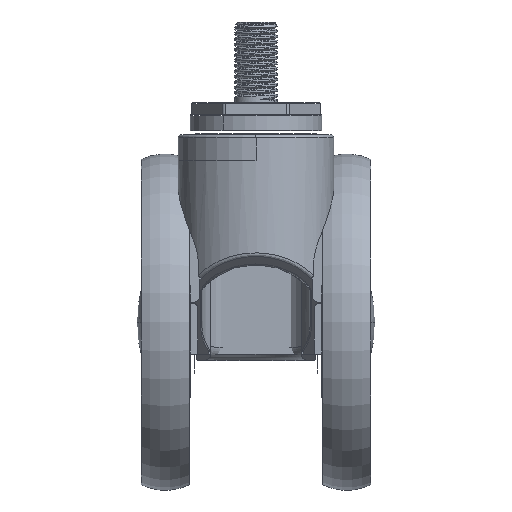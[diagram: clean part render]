
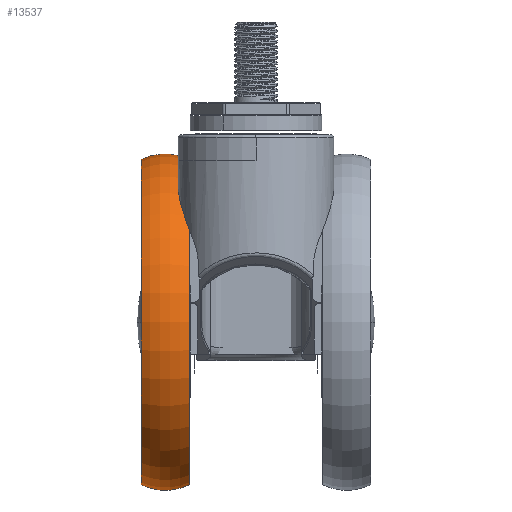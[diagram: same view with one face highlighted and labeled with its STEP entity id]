
A CAD part, top view. The second image highlights one B-rep face of the part: STEP entity #13537.
In plain terms, the highlighted toroidal (fillet/blend) face has major radius 41.25 mm and minor radius 21.25 mm.
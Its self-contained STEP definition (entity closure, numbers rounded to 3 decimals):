
#13403=CARTESIAN_POINT('',(-33.75,-41.25,0.));
#13404=DIRECTION('',(0.,0.,-1.));
#13405=DIRECTION('',(0.424,-0.906,0.));
#13406=AXIS2_PLACEMENT_3D('',#13403,#13404,#13405);
#13408=CARTESIAN_POINT('',(-33.75,41.25,0.));
#13409=DIRECTION('',(0.,0.,1.));
#13410=DIRECTION('',(0.424,0.906,0.));
#13411=AXIS2_PLACEMENT_3D('',#13408,#13409,#13410);
#13413=CARTESIAN_POINT('',(-24.75,0.,0.));
#13414=DIRECTION('',(-1.,0.,0.));
#13415=DIRECTION('',(0.,-1.,0.));
#13416=AXIS2_PLACEMENT_3D('',#13413,#13414,#13415);
#13418=CARTESIAN_POINT('',(-42.75,0.,0.));
#13419=DIRECTION('',(-1.,0.,0.));
#13420=DIRECTION('',(0.,-1.,0.));
#13421=AXIS2_PLACEMENT_3D('',#13418,#13419,#13420);
#13458=CARTESIAN_POINT('',(-24.75,-60.5,0.));
#13459=CARTESIAN_POINT('',(-42.75,-60.5,0.));
#13460=VERTEX_POINT('',#13458);
#13461=VERTEX_POINT('',#13459);
#13462=CARTESIAN_POINT('',(-24.75,60.5,0.));
#13463=CARTESIAN_POINT('',(-42.75,60.5,0.));
#13464=VERTEX_POINT('',#13462);
#13465=VERTEX_POINT('',#13463);
#13525=CARTESIAN_POINT('',(-33.75,0.,0.));
#13526=DIRECTION('',(1.,0.,0.));
#13527=DIRECTION('',(0.,1.,0.));
#13528=AXIS2_PLACEMENT_3D('',#13525,#13526,#13527);
#13529=TOROIDAL_SURFACE('',#13528,41.25,21.25);
#13530=ORIENTED_EDGE('',*,*,#13508,.T.);
#13532=ORIENTED_EDGE('',*,*,#13531,.T.);
#13533=ORIENTED_EDGE('',*,*,#13511,.F.);
#13534=ORIENTED_EDGE('',*,*,#13485,.F.);
#13535=EDGE_LOOP('',(#13530,#13532,#13533,#13534));
#13536=FACE_OUTER_BOUND('',#13535,.F.);
#13407=CIRCLE('',#13406,21.25);
#13412=CIRCLE('',#13411,21.25);
#13417=CIRCLE('',#13416,60.5);
#13422=CIRCLE('',#13421,60.5);
#13485=EDGE_CURVE('',#13460,#13464,#13417,.T.);
#13508=EDGE_CURVE('',#13460,#13461,#13407,.T.);
#13511=EDGE_CURVE('',#13464,#13465,#13412,.T.);
#13531=EDGE_CURVE('',#13461,#13465,#13422,.T.);
#13537=ADVANCED_FACE('',(#13536),#13529,.T.);
